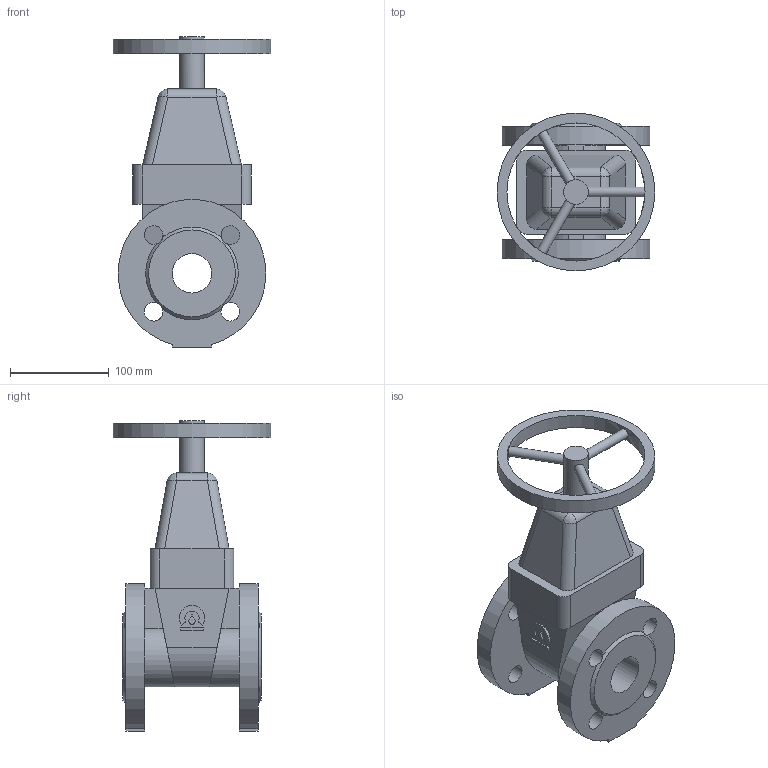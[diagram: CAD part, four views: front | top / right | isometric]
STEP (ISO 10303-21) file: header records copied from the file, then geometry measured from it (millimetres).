
FILE_DESCRIPTION(('STEP AP203'), '1');
FILE_NAME('Çàäâèæêà 47GV DN40 PN10_PN16_L140 ñ ìàõîâèêîì', '', ('UNSPECIFIED'), ('UNSPECIFIED'), 'ASCON STEP Converter 1.6', 'ASCON Math Kernel', '');
FILE_SCHEMA(('CONFIG_CONTROL_DESIGN'));
Length unit declared in the file: millimetre
Bounding box: 160 x 160 x 315 mm (x, y, z)
Volume: 2076599.4 mm3; surface area: 216583.4 mm2
Topology: 1 solids, 1 shells, 96 faces, 259 edges, 164 vertices
Faces by surface type: plane 50, cylinder 40, bspline 4, cone 2
Full cylindrical faces by diameter (mm): 10 x3, 19 x8, 25 x1, 40 x1, 140 x1, 160 x1
Entity records: 5384 total; most frequent: CARTESIAN_POINT 2209, DIRECTION 482, ORIENTED_EDGE 476, EDGE_CURVE 238, AXIS2_PLACEMENT_3D 177, VERTEX_POINT 164, EDGE_LOOP 140, LINE 128
